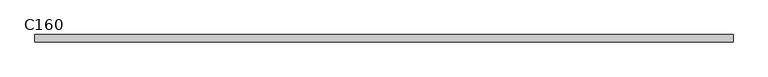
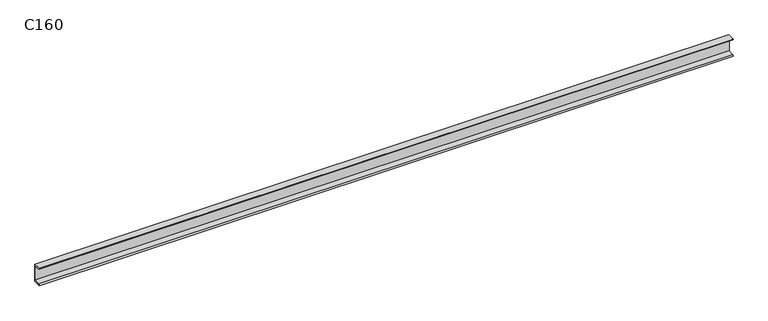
"""IFC4 building model written with IfcOpenShell, lengths in millimetres: beam geometry, RPLN C - Ceowniki normalne : C160."""

from ifc_helpers import new_model, si_unit, point, frame, frame_2d, origin, place, context, project, spatial, polyline, circle_curve, trimmed, segment, composite_curve, outline, extrude, source, transform, mapped, element, save


def c160_022745be(model_context):
    return source(origin(), model_context, "Body", "SweptSolid", [
        extrude(outline(composite_curve([segment(polyline([(18.4, 80.0), (18.4, -80.0), (-46.6, -80.0)]), True, "CONTINUOUS"), segment(trimmed(circle_curve(frame_2d((-36.1, -80.0)), 10.5), [point((-46.6, -80.0))], [point((-36.1, -69.5))], False, "CARTESIAN"), True, "CONTINUOUS"), segment(polyline([(-36.1, -69.5), (10.9, -62.0559313), (10.9, 62.0559313), (-36.1, 69.5)]), True, "CONTINUOUS"), segment(trimmed(circle_curve(frame_2d((-36.1, 80.0)), 10.5), [point((-36.1, 69.5))], [point((-46.6, 80.0))], False, "CARTESIAN"), True, "CONTINUOUS"), segment(polyline([(-46.6, 80.0), (18.4, 80.0)]), True, "CONTINUOUS")], self_intersect=False)), frame((-3000.0, 0.0, 0.0), z_axis=(1.0, 0.0, 0.0), x_axis=(0.0, 1.0, 0.0)), (0.0, 0.0, 1.0), 6113.3451248),
    ])


if __name__ == "__main__":
    model = new_model("IFC4")
    model_context = context("Model", 3, world=origin())
    ifc_project = project(units=[si_unit("LENGTHUNIT", "METRE", prefix="MILLI")], contexts=[model_context])
    site = spatial("IfcSite", under=ifc_project)
    building = spatial("IfcBuilding", under=site)
    placement = place(None, origin())
    c160_shape = c160_022745be(model_context)
    element("IfcBeam", 1, ObjectType="RPLN C - Ceowniki normalne : C160", at=placement, inside=building, context=model_context, shape_type="MappedRepresentation", body=[
        mapped(c160_shape, transform((0.0, 0.0, 0.0), x_axis=(1.0, 0.0, 0.0), y_axis=(0.0, 1.0, 0.0), z_axis=(0.0, 0.0, 1.0))),
    ])
    save(model, "model.ifc")
